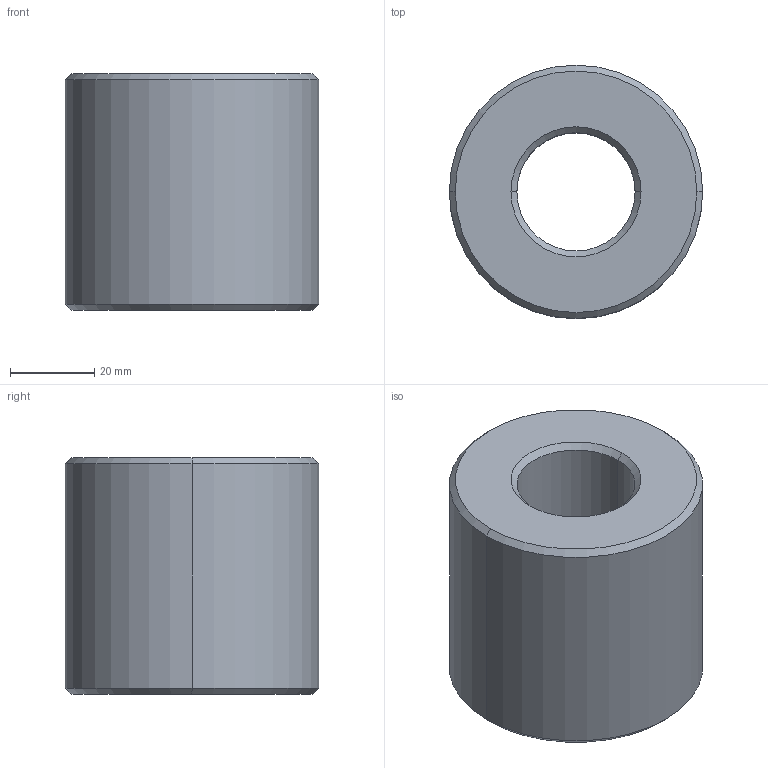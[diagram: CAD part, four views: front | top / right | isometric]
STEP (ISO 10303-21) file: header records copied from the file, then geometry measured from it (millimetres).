
FILE_DESCRIPTION (( 'STEP AP203' ), '1' );
FILE_NAME ('L1330.R28-05.step', '2024-10-24T09:27:55', ( '' ), ( '' ), 'SwSTEP 2.0', 'SolidWorks 2019', '' );
FILE_SCHEMA (( 'CONFIG_CONTROL_DESIGN' ));
Length unit declared in the file: millimetre
Products named in the file (1): L1330.R28-05
Bounding box: 60 x 60 x 56 mm (x, y, z)
Volume: 123312.3 mm3; surface area: 19451.7 mm2
Topology: 1 solids, 1 shells, 14 faces, 28 edges, 16 vertices
Faces by surface type: cone 8, cylinder 4, plane 2
Entity records: 445 total; most frequent: DIRECTION 74, CARTESIAN_POINT 59, ORIENTED_EDGE 56, AXIS2_PLACEMENT_3D 31, EDGE_CURVE 28, EDGE_LOOP 16, VERTEX_POINT 16, CIRCLE 16
